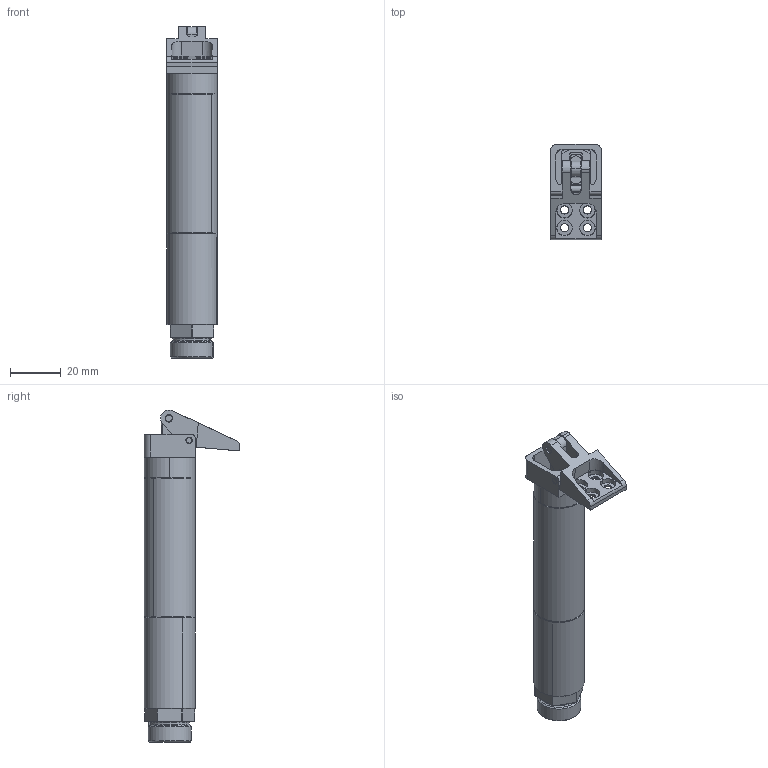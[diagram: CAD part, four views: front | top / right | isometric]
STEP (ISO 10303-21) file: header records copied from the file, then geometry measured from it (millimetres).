
FILE_DESCRIPTION (( 'STEP AP214' ), '1' );
FILE_NAME ('GFR20-95S.STEP', '2019-11-20T01:21:21', ( '微软用户' ), ( '微软中国' ), 'SwSTEP 2.0', 'SolidWorks 2016', '' );
FILE_SCHEMA (( 'AUTOMOTIVE_DESIGN' ));
Length unit declared in the file: millimetre
Products named in the file (1): GFR20-95S
Bounding box: 20 x 37.46 x 130.57 mm (x, y, z)
Volume: 29150.5 mm3; surface area: 23267 mm2
Topology: 12 solids, 12 shells, 476 faces, 1155 edges, 720 vertices
Faces by surface type: plane 175, cylinder 169, cone 72, torus 46, bspline 12, sphere 2
Entity records: 25771 total; most frequent: CARTESIAN_POINT 9017, DIRECTION 2501, ORIENTED_EDGE 2298, EDGE_CURVE 1149, AXIS2_PLACEMENT_3D 965, VERTEX_POINT 718, VECTOR 571, LINE 571
